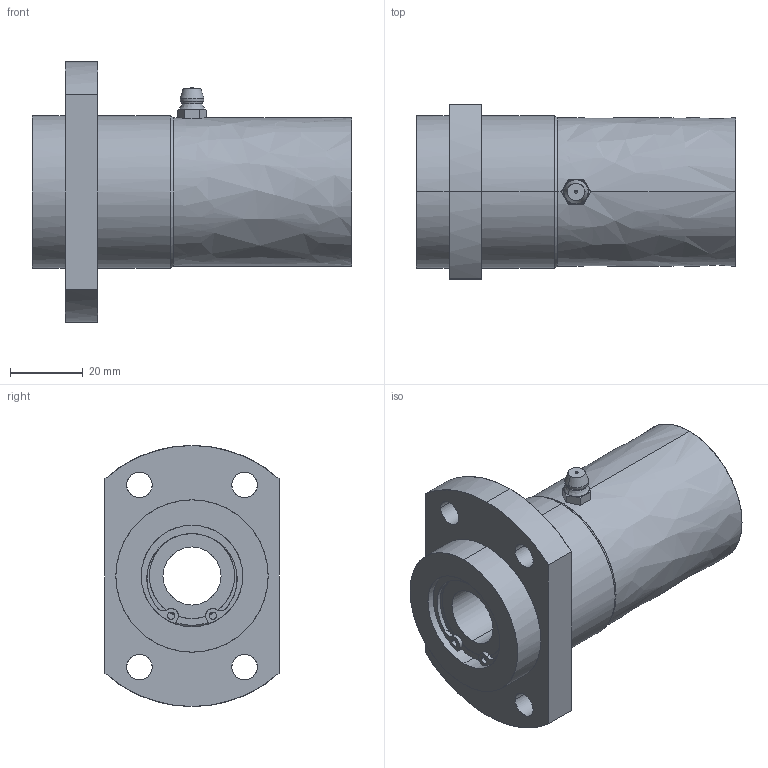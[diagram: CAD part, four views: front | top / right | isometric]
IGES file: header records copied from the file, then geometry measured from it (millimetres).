
Global section: file name: No Iges File Name specified; native system: AutoDesk Inventor R10; preprocessor: AutoDesk Inventor Iges Exporter R10; author: No Author specified; organization: No Organization specified; date: 20101214.135115; units: millimetre
Bounding box: 88 x 48 x 72 mm (x, y, z)
Surface area: 26762.2 mm2 (no closed solid volume)
Topology: 0 solids, 0 shells, 158 faces, 1082 edges, 1080 vertices
Faces by surface type: bspline 158
